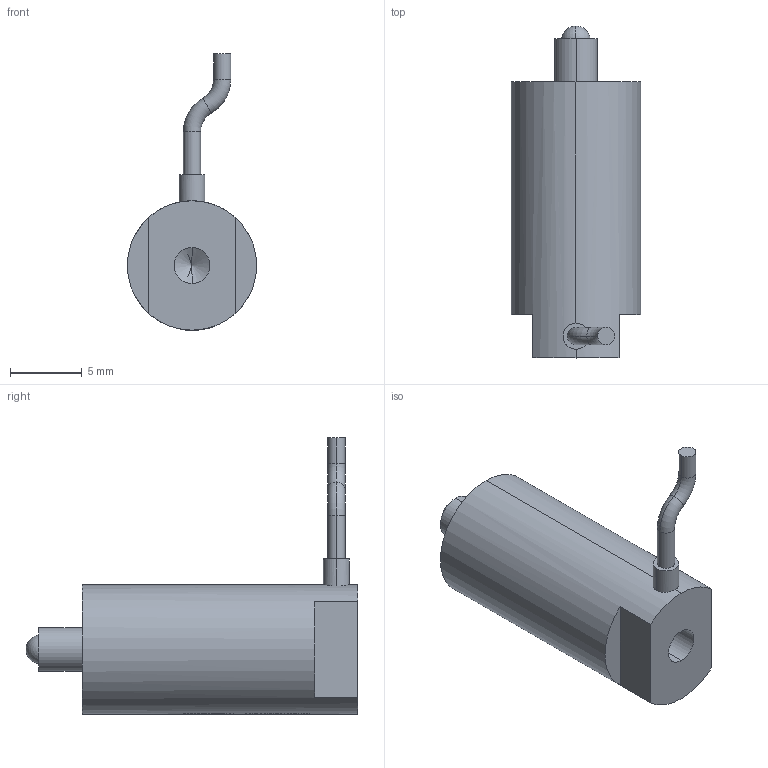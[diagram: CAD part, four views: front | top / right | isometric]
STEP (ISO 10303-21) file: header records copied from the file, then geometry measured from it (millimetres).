
FILE_DESCRIPTION (( 'STEP AP203' ), '1' );
FILE_NAME ('7VS9推杆球头.STEP', '2021-07-07T08:34:55', ( '微软用户' ), ( '微软公司' ), 'SwSTEP 2.0', 'SolidWorks 2016', '' );
FILE_SCHEMA (( 'CONFIG_CONTROL_DESIGN' ));
Length unit declared in the file: millimetre
Products named in the file (1): 7VS9芢裝⑩芛
Bounding box: 9 x 23.1 x 19.25 mm (x, y, z)
Volume: 1189.5 mm3; surface area: 786.3 mm2
Topology: 1 solids, 1 shells, 895 faces, 2408 edges, 1601 vertices
Faces by surface type: bspline 495, plane 292, cylinder 100, torus 4, sphere 2, cone 2
Entity records: 41325 total; most frequent: CARTESIAN_POINT 23269, ORIENTED_EDGE 4812, EDGE_CURVE 2406, DIRECTION 1821, B_SPLINE_CURVE_WITH_KNOTS 1634, VERTEX_POINT 1601, EDGE_LOOP 983, FACE_OUTER_BOUND 895
